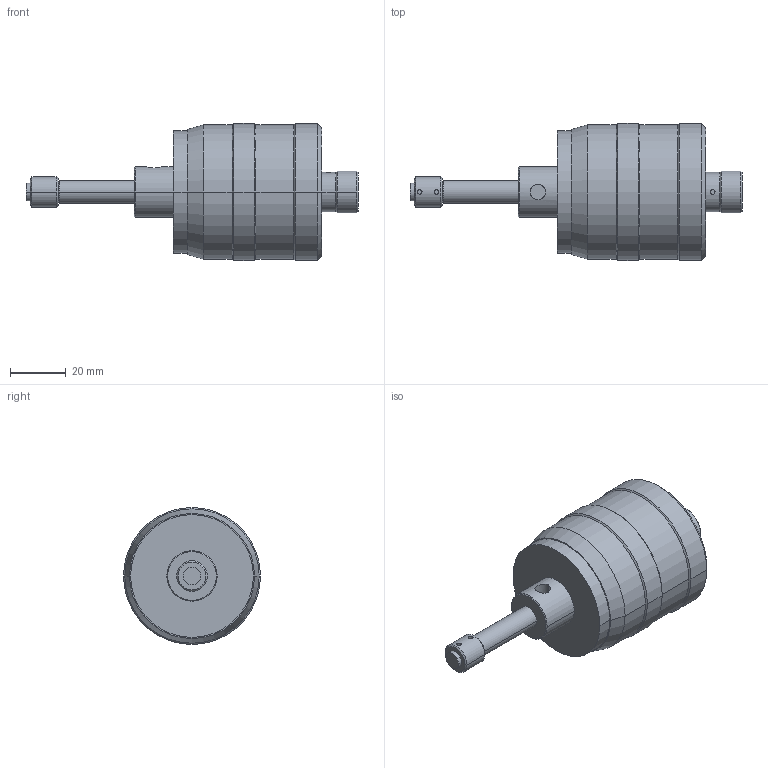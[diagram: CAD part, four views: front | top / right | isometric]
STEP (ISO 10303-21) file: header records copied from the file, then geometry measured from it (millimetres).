
FILE_DESCRIPTION(('Creo Elements/Direct Modeling STEP Export'),'2;1');
FILE_NAME('152-390_MHG1-25X2.stp','2014-02-06T19:29:47',(''),(''),'Creo Elements/Direct Modeling STEP processor for AP214 (Solid Model)','Creo Elements/Direct Modeling 18.1B 29-Sep-2012 (C) Parametric Technology GmbH','');
FILE_SCHEMA(('AUTOMOTIVE_DESIGN { 1 0 10303 214 1 1 1 1 }'));
Length unit declared in the file: millimetre
Products named in the file (1): 152-390_MHG1-25X2
Bounding box: 118.7 x 49 x 49 mm (x, y, z)
Volume: 102867.3 mm3; surface area: 14048.6 mm2
Topology: 1 solids, 1 shells, 64 faces, 126 edges, 74 vertices
Faces by surface type: cylinder 28, cone 22, plane 12, revolution 2
Entity records: 2706 total; most frequent: CARTESIAN_POINT 1425, DIRECTION 260, ORIENTED_EDGE 252, EDGE_CURVE 126, AXIS2_PLACEMENT_3D 103, VERTEX_POINT 74, EDGE_LOOP 74, FACE_OUTER_BOUND 64
